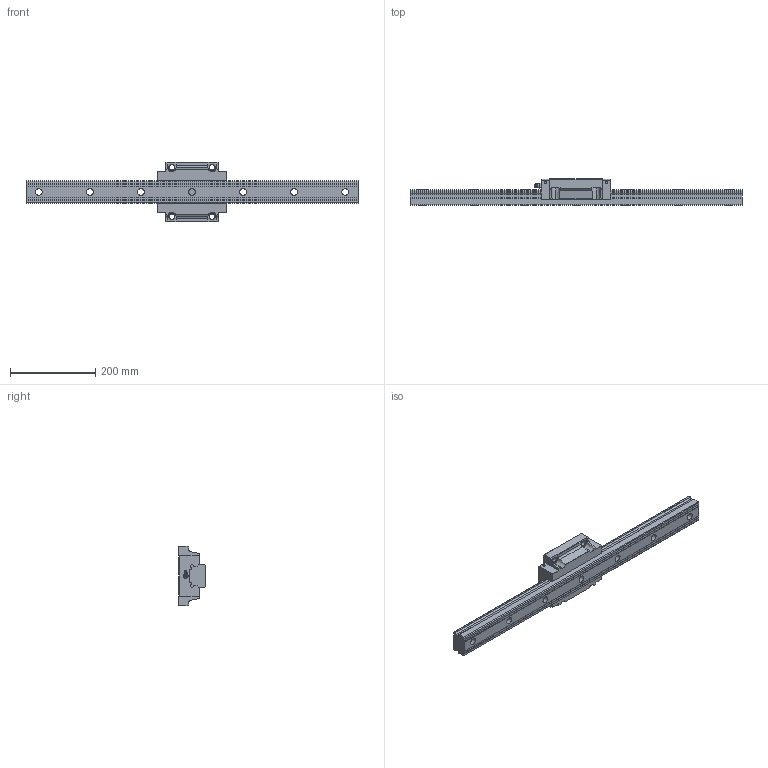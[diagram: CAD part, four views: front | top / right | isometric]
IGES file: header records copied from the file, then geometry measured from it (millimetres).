
Start section: Data from Parasolid IGES Translator 26.0.171, Copyright(c) 2006 Siemens PLM Software. All Rights Reserved.
Global section: file name: SVR55C1SS-780L_G30_0_B-PT18_308-35_0_0_0_1.igs; native system: By Siemens PLM Incorporated; preprocessor: XPlus GENERIC/IGES 26.0.171; author: Noname; organization: Noname; date: 20240517.072304; units: millimetre
Bounding box: 780 x 63 x 140 mm (x, y, z)
Surface area: 240400.6 mm2 (no closed solid volume)
Topology: 0 solids, 0 shells, 227 faces, 1253 edges, 1207 vertices
Faces by surface type: extrusion 128, revolution 99
